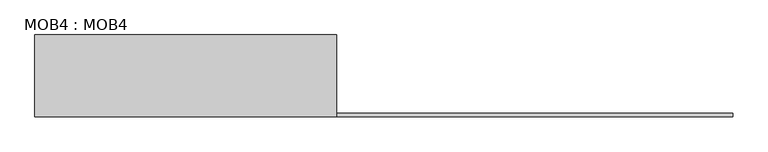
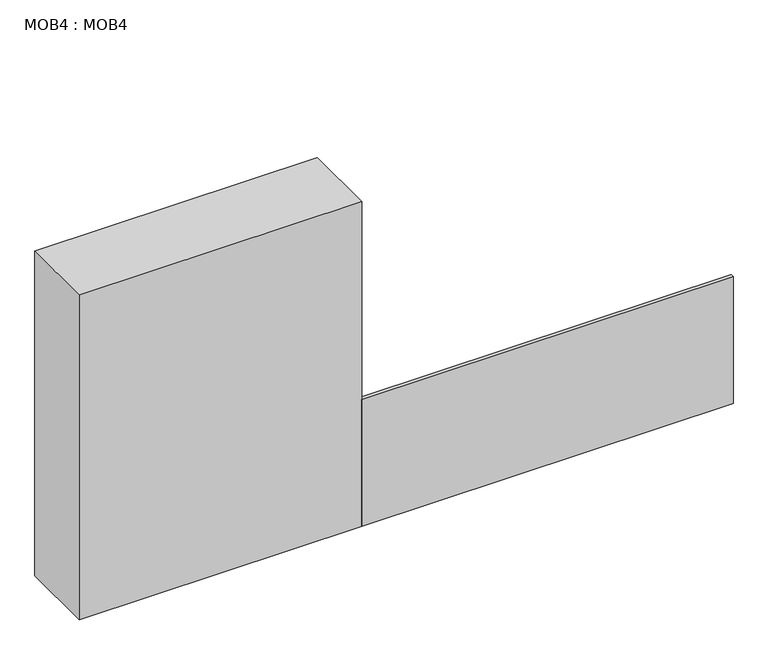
"""IFC4 building model written with IfcOpenShell, lengths in millimetres: furniture geometry, MOB4 : MOB4."""

from ifc_helpers import new_model, si_unit, origin, origin_with_axes, place, context, project, spatial, polyline, outline, extrude, source, transform, mapped, element, save


def mob4_mob4_b86fb9cc(model_context):
    return source(origin(), model_context, "Body", "SweptSolid", [
        extrude(outline(polyline([(-240.2996736, 0.0), (-240.2996736, -490.0), (-2050.2996736, -490.0), (-2050.2996736, 0.0), (-240.2996736, 0.0)])), origin_with_axes(), (0.0, 0.0, 1.0), 2200.0),
        extrude(outline(polyline([(2139.7003264, -470.0), (2139.7003264, -490.0), (-240.2996736, -490.0), (-240.2996736, -470.0), (2139.7003264, -470.0)])), origin_with_axes(), (0.0, 0.0, 1.0), 860.0),
    ])


if __name__ == "__main__":
    model = new_model("IFC4")
    model_context = context("Model", 3, world=origin())
    ifc_project = project(units=[si_unit("LENGTHUNIT", "METRE", prefix="MILLI")], contexts=[model_context])
    site = spatial("IfcSite", under=ifc_project)
    building = spatial("IfcBuilding", under=site)
    placement = place(None, origin())
    mob4_mob4_shape = mob4_mob4_b86fb9cc(model_context)
    element("IfcFurniture", 1, ObjectType="MOB4 : MOB4", at=placement, inside=building, context=model_context, shape_type="MappedRepresentation", body=[
        mapped(mob4_mob4_shape, transform((0.0, 0.0, 0.0), x_axis=(1.0, 0.0, 0.0), y_axis=(0.0, 1.0, 0.0), z_axis=(0.0, 0.0, 1.0))),
    ])
    save(model, "model.ifc")
